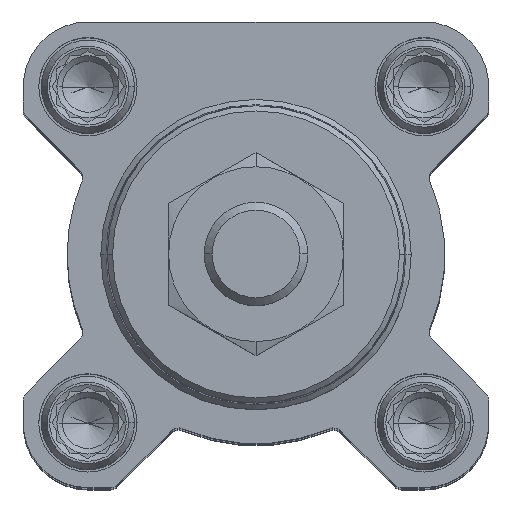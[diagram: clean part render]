
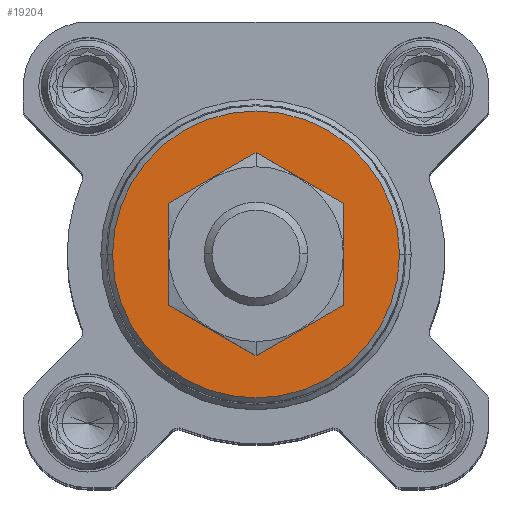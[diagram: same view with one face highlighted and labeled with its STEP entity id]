
A CAD part, top view. The second image highlights one B-rep face of the part: STEP entity #19204.
In plain terms, the highlighted planar face has unit normal (0, 0, 1).
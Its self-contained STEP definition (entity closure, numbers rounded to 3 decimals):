
#102 = DIRECTION ( 'NONE',  ( 0., 0., -1. ) ) ;
#191 = CARTESIAN_POINT ( 'NONE',  ( 0., 0., 18. ) ) ;
#510 = FACE_OUTER_BOUND ( 'NONE', #9190, .T. ) ;
#1051 = AXIS2_PLACEMENT_3D ( 'NONE', #10971, #102, #9363 ) ;
#1085 = EDGE_CURVE ( 'NONE', #15339, #7939, #1586, .T. ) ;
#1586 = CIRCLE ( 'NONE', #7011, 13.869 ) ;
#1959 = CARTESIAN_POINT ( 'NONE',  ( 0., 0., 18. ) ) ;
#2249 = CARTESIAN_POINT ( 'NONE',  ( 0., 0., 18. ) ) ;
#3382 = PLANE ( 'NONE',  #15035 ) ;
#4958 = DIRECTION ( 'NONE',  ( 0., 0., -1. ) ) ;
#4981 = DIRECTION ( 'NONE',  ( 0., 0., -1. ) ) ;
#6125 = CIRCLE ( 'NONE', #1051, 13.869 ) ;
#7011 = AXIS2_PLACEMENT_3D ( 'NONE', #1959, #9227, #16981 ) ;
#7034 = DIRECTION ( 'NONE',  ( -1., 0., 0. ) ) ;
#7939 = VERTEX_POINT ( 'NONE', #16089 ) ;
#9190 = EDGE_LOOP ( 'NONE', ( #9264, #10517 ) ) ;
#9227 = DIRECTION ( 'NONE',  ( 0., 0., -1. ) ) ;
#9261 = CIRCLE ( 'NONE', #13698, 6. ) ;
#9264 = ORIENTED_EDGE ( 'NONE', *, *, #1085, .F. ) ;
#9363 = DIRECTION ( 'NONE',  ( -1., 0., 0. ) ) ;
#9458 = DIRECTION ( 'NONE',  ( 0., -1., 0. ) ) ;
#10517 = ORIENTED_EDGE ( 'NONE', *, *, #12059, .F. ) ;
#10971 = CARTESIAN_POINT ( 'NONE',  ( 0., 0., 18. ) ) ;
#11198 = CARTESIAN_POINT ( 'NONE',  ( 6., 0., 18. ) ) ;
#11329 = ORIENTED_EDGE ( 'NONE', *, *, #12532, .T. ) ;
#12059 = EDGE_CURVE ( 'NONE', #7939, #15339, #6125, .T. ) ;
#12123 = AXIS2_PLACEMENT_3D ( 'NONE', #2249, #19154, #7034 ) ;
#12532 = EDGE_CURVE ( 'NONE', #19657, #15386, #9261, .T. ) ;
#13072 = EDGE_LOOP ( 'NONE', ( #11329, #14894 ) ) ;
#13698 = AXIS2_PLACEMENT_3D ( 'NONE', #15601, #4958, #17301 ) ;
#13774 = CARTESIAN_POINT ( 'NONE',  ( -13.869, 0., 18. ) ) ;
#13864 = EDGE_CURVE ( 'NONE', #15386, #19657, #18465, .T. ) ;
#14894 = ORIENTED_EDGE ( 'NONE', *, *, #13864, .T. ) ;
#15035 = AXIS2_PLACEMENT_3D ( 'NONE', #191, #4981, #9458 ) ;
#15339 = VERTEX_POINT ( 'NONE', #13774 ) ;
#15386 = VERTEX_POINT ( 'NONE', #11198 ) ;
#15601 = CARTESIAN_POINT ( 'NONE',  ( 0., 0., 18. ) ) ;
#16089 = CARTESIAN_POINT ( 'NONE',  ( 13.869, 0., 18. ) ) ;
#16981 = DIRECTION ( 'NONE',  ( -1., 0., 0. ) ) ;
#17301 = DIRECTION ( 'NONE',  ( -1., 0., 0. ) ) ;
#18465 = CIRCLE ( 'NONE', #12123, 6. ) ;
#18612 = FACE_BOUND ( 'NONE', #13072, .T. ) ;
#19154 = DIRECTION ( 'NONE',  ( 0., 0., -1. ) ) ;
#19170 = CARTESIAN_POINT ( 'NONE',  ( -6., 0., 18. ) ) ;
#19204 = ADVANCED_FACE ( 'NONE', ( #510, #18612 ), #3382, .F. ) ;
#19657 = VERTEX_POINT ( 'NONE', #19170 ) ;
